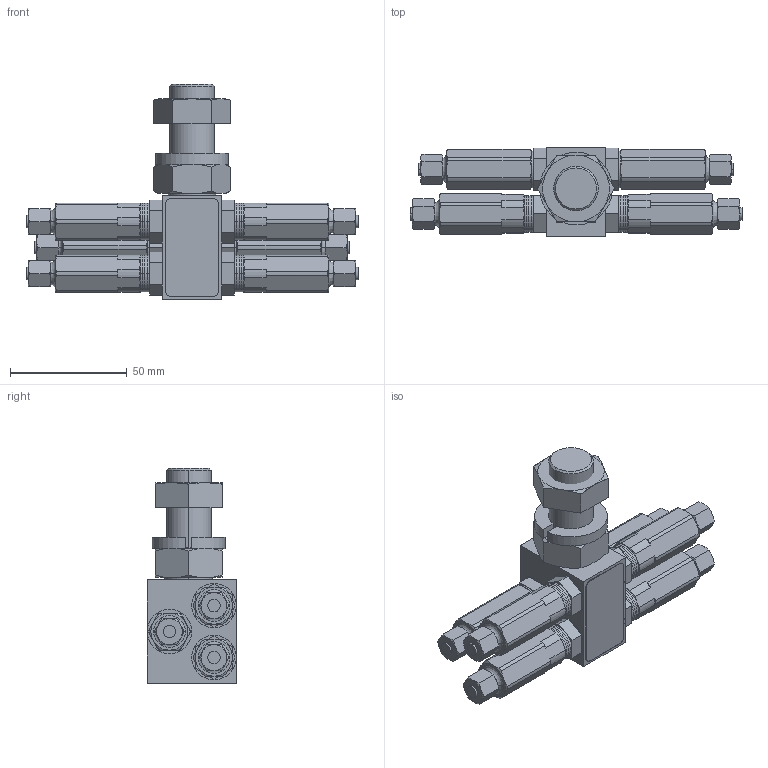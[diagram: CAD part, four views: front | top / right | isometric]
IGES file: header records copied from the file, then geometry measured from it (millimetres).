
Start section:  PTC IGES file: 25c853-en-c.igs
Global section: file name: 25c853-en-c.igs; native system: Creo Parametric by PTC Inc.; preprocessor: 2021072; author: qtmwp1; organization: Unknown; date: 20220214.122958; units: inch
Bounding box: 141.99 x 38.35 x 91.97 mm (x, y, z)
Surface area: 39331.7 mm2 (no closed solid volume)
Topology: 0 solids, 0 shells, 461 faces, 2106 edges, 2100 vertices
Faces by surface type: revolution 259, bspline 202
